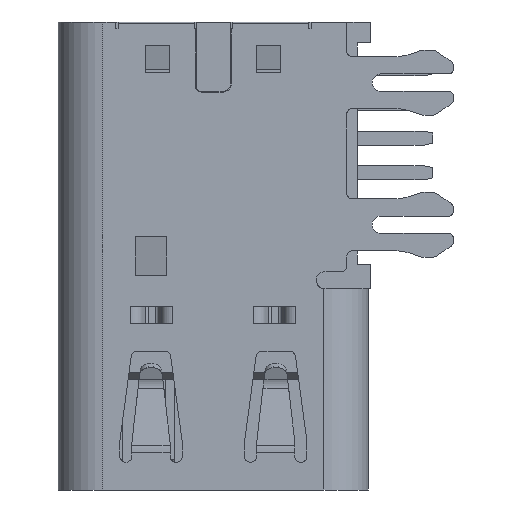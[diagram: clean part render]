
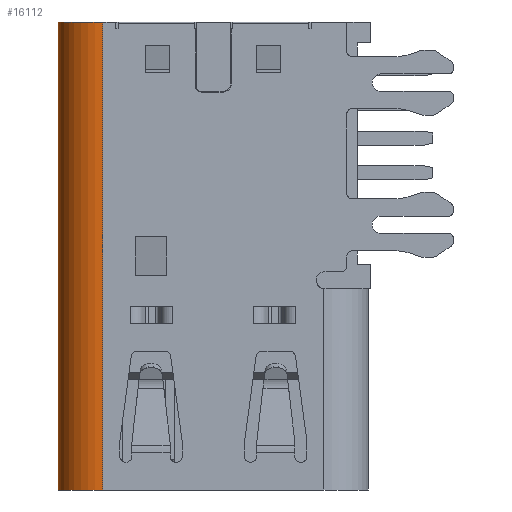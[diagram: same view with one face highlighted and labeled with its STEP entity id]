
A CAD part, front view. The second image highlights one B-rep face of the part: STEP entity #16112.
In plain terms, the highlighted cylindrical face has radius 1.28 mm (diameter 2.56 mm), a partial arc.
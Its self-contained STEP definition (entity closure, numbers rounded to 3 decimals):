
#1=DIRECTION('',(0.,0.,-1.));
#2=VECTOR('',#1,5.);
#3=CARTESIAN_POINT('',(-4.47,19.695,3.092));
#4=LINE('',#3,#2);
#5=DIRECTION('',(0.,0.,-1.));
#6=VECTOR('',#5,8.5);
#7=CARTESIAN_POINT('',(-4.47,19.695,-1.908));
#8=LINE('',#7,#6);
#2112=CARTESIAN_POINT('',(-3.19,19.695,-10.408));
#2113=DIRECTION('',(0.,0.,-1.));
#2114=DIRECTION('',(0.,-1.,0.));
#2115=AXIS2_PLACEMENT_3D('',#2112,#2113,#2114);
#2721=DIRECTION('',(0.,0.,-1.));
#2722=VECTOR('',#2721,13.5);
#2723=CARTESIAN_POINT('',(-3.19,18.415,3.092));
#2724=LINE('',#2723,#2722);
#6907=CARTESIAN_POINT('',(-3.19,19.695,3.092));
#6908=DIRECTION('',(0.,0.,1.));
#6909=DIRECTION('',(-1.,0.,0.));
#6910=AXIS2_PLACEMENT_3D('',#6907,#6908,#6909);
#12272=CARTESIAN_POINT('',(-4.47,19.695,3.092));
#12273=CARTESIAN_POINT('',(-4.47,19.695,-1.908));
#12274=VERTEX_POINT('',#12272);
#12275=VERTEX_POINT('',#12273);
#12276=CARTESIAN_POINT('',(-4.47,19.695,-10.408));
#12277=VERTEX_POINT('',#12276);
#12278=CARTESIAN_POINT('',(-3.19,18.415,-10.408));
#12279=VERTEX_POINT('',#12278);
#12280=CARTESIAN_POINT('',(-3.19,18.415,
3.092));
#12281=VERTEX_POINT('',#12280);
#16095=CARTESIAN_POINT('',(-3.19,19.695,3.192));
#16096=DIRECTION('',(0.,0.,1.));
#16097=DIRECTION('',(-0.999,0.051,0.));
#16098=AXIS2_PLACEMENT_3D('',#16095,#16096,#16097);
#16099=CYLINDRICAL_SURFACE('',#16098,1.28);
#16101=ORIENTED_EDGE('',*,*,#16100,.F.);
#16103=ORIENTED_EDGE('',*,*,#16102,.T.);
#16105=ORIENTED_EDGE('',*,*,#16104,.T.);
#16107=ORIENTED_EDGE('',*,*,#16106,.T.);
#16109=ORIENTED_EDGE('',*,*,#16108,.F.);
#16110=EDGE_LOOP('',(#16101,#16103,#16105,#16107,#16109));
#16111=FACE_OUTER_BOUND('',#16110,.F.);
#2116=CIRCLE('',#2115,1.28);
#6911=CIRCLE('',#6910,1.28);
#16100=EDGE_CURVE('',#12274,#12275,#4,.T.);
#16102=EDGE_CURVE('',#12274,#12281,#6911,.T.);
#16104=EDGE_CURVE('',#12281,#12279,#2724,.T.);
#16106=EDGE_CURVE('',#12279,#12277,#2116,.T.);
#16108=EDGE_CURVE('',#12275,#12277,#8,.T.);
#16112=ADVANCED_FACE('',(#16111),#16099,.T.);
